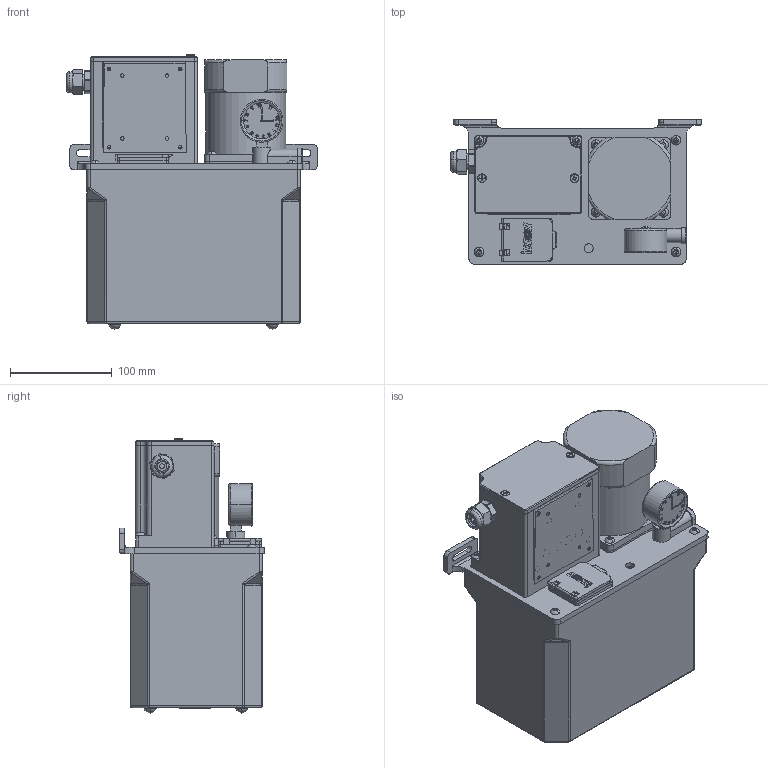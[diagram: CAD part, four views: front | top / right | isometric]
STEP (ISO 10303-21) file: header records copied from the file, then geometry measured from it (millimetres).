
FILE_DESCRIPTION (( 'STEP AP203' ), '1' );
FILE_NAME ('AMG不带控制抵坑式3L.STEP', '2020-04-13T02:28:32', ( '个人用户' ), ( '微软中国' ), 'SwSTEP 2.0', 'SolidWorks 2018', '' );
FILE_SCHEMA (( 'CONFIG_CONTROL_DESIGN' ));
Length unit declared in the file: millimetre
Products named in the file (1): AMG祥湍諷秶萋諧宒3L
Bounding box: 247.16 x 142 x 269.84 mm (x, y, z)
Surface area: 279971.7 mm2 (no closed solid volume)
Topology: 0 solids, 37 shells, 695 faces, 2592 edges, 1883 vertices
Faces by surface type: plane 330, cylinder 191, bspline 73, cone 41, sphere 34, torus 26
Entity records: 35303 total; most frequent: CARTESIAN_POINT 14217, DIRECTION 4181, ORIENTED_EDGE 3929, EDGE_CURVE 2580, VERTEX_POINT 1883, LINE 1543, VECTOR 1543, AXIS2_PLACEMENT_3D 1319
